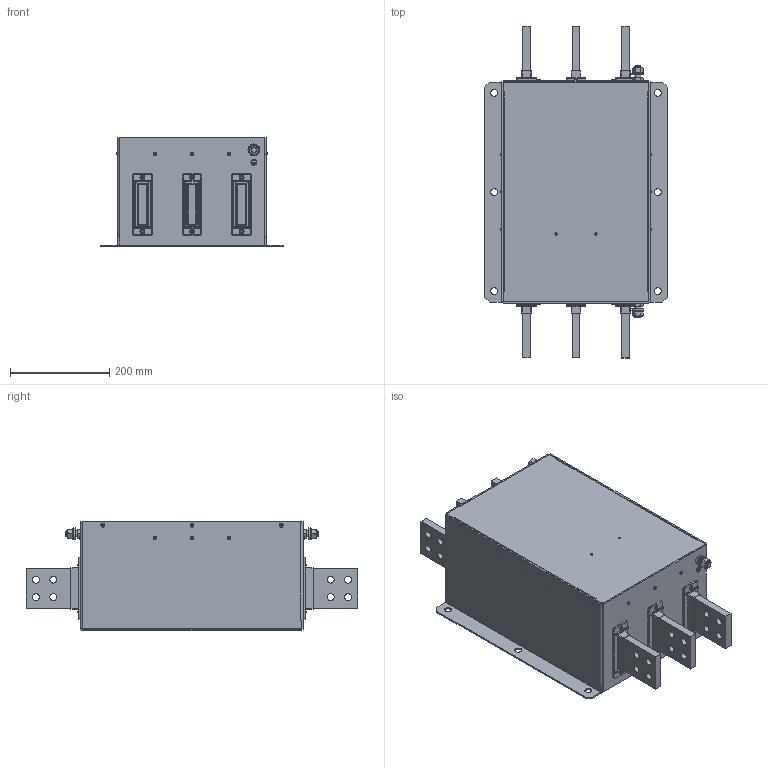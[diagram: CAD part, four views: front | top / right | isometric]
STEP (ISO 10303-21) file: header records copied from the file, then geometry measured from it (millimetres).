
FILE_DESCRIPTION(/* description */ ('raw material description'),/* implementation_level */ '2;1');
FILE_NAME(/* name */ 'C:\Users\Samuel.Meier\Desktop\FN3359X-2500-99_2.stp',/* time_stamp */ '2017-06-08T13:04:25+02:00',/* author */ ('Samuel.Meier'),/* organization */ ('Schaffner EMV AG'),/* preprocessor_version */ 'ST-DEVELOPER v16.5',/* originating_system */ 'Autodesk Inventor 2017',/* authorisation */ '');
FILE_SCHEMA (('CONFIG_CONTROL_DESIGN'));
Products named in the file (1): FN3359X-2500-99
Bounding box: 370 x 670 x 220 mm (x, y, z)
Volume: 2955847.4 mm3; surface area: 1645244.5 mm2
Topology: 2 solids, 26 shells, 1677 faces, 4103 edges, 2618 vertices
Faces by surface type: plane 856, cylinder 570, bspline 113, cone 84, torus 54
Full cylindrical faces by diameter (mm): 3.2 x12, 3.3 x40, 3.5 x12, 4 x18, 4.1 x34, 4.3 x6, 4.82 x4, 6 x12, 6.8 x12, 8 x18, 11 x2, 11.053 x2, 12 x8, 13 x4, 14 x30, 17.2 x2, 24 x2
Entity records: 52741 total; most frequent: CARTESIAN_POINT 11857, DIRECTION 8165, ORIENTED_EDGE 7624, EDGE_CURVE 3807, AXIS2_PLACEMENT_3D 3013, VERTEX_POINT 2594, EDGE_LOOP 2358, LINE 2139
